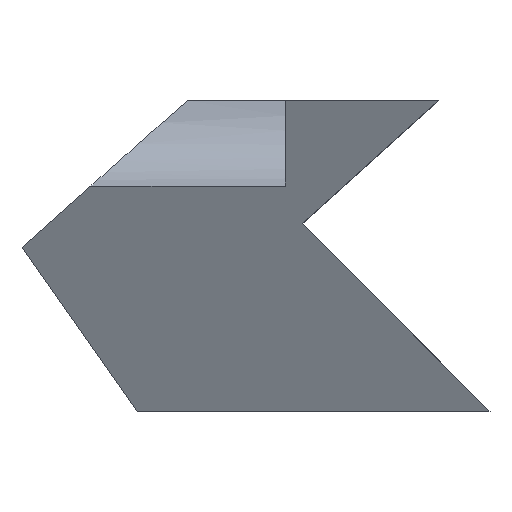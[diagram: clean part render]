
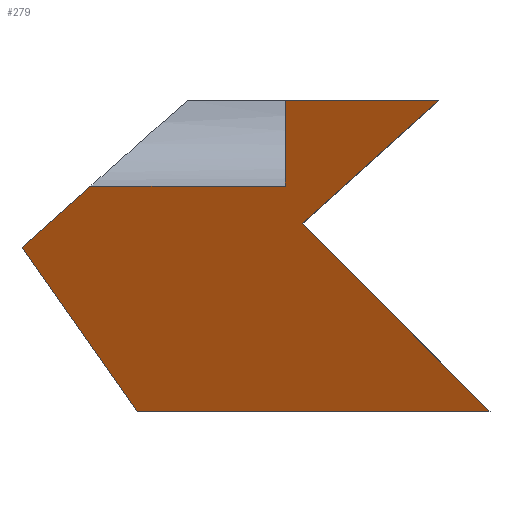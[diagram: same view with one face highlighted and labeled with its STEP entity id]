
A CAD part, top view. The second image highlights one B-rep face of the part: STEP entity #279.
In plain terms, the highlighted planar face has unit normal (0, -0.423, 0.906).
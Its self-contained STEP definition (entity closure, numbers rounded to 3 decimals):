
#24=FACE_OUTER_BOUND('',#39,.T.);
#39=EDGE_LOOP('',(#210,#211,#212,#213,#214,#215,#216,#217));
#50=LINE('',#408,#86);
#53=LINE('',#414,#89);
#59=LINE('',#428,#95);
#63=LINE('',#437,#99);
#64=LINE('',#439,#100);
#65=LINE('',#442,#101);
#66=LINE('',#444,#102);
#67=LINE('',#445,#103);
#86=VECTOR('',#334,10.);
#89=VECTOR('',#339,10.);
#95=VECTOR('',#351,10.);
#99=VECTOR('',#359,10.);
#100=VECTOR('',#362,10.);
#101=VECTOR('',#365,10.);
#102=VECTOR('',#366,10.);
#103=VECTOR('',#367,10.);
#122=VERTEX_POINT('',#405);
#123=VERTEX_POINT('',#407);
#125=VERTEX_POINT('',#413);
#129=VERTEX_POINT('',#425);
#130=VERTEX_POINT('',#427);
#133=VERTEX_POINT('',#435);
#134=VERTEX_POINT('',#441);
#135=VERTEX_POINT('',#443);
#147=EDGE_CURVE('',#123,#122,#50,.T.);
#150=EDGE_CURVE('',#125,#123,#53,.T.);
#157=EDGE_CURVE('',#129,#130,#59,.T.);
#162=EDGE_CURVE('',#129,#133,#63,.T.);
#163=EDGE_CURVE('',#133,#125,#64,.T.);
#164=EDGE_CURVE('',#134,#122,#65,.T.);
#165=EDGE_CURVE('',#135,#134,#66,.T.);
#166=EDGE_CURVE('',#130,#135,#67,.T.);
#210=ORIENTED_EDGE('',*,*,#147,.T.);
#211=ORIENTED_EDGE('',*,*,#164,.F.);
#212=ORIENTED_EDGE('',*,*,#165,.F.);
#213=ORIENTED_EDGE('',*,*,#166,.F.);
#214=ORIENTED_EDGE('',*,*,#157,.F.);
#215=ORIENTED_EDGE('',*,*,#162,.T.);
#216=ORIENTED_EDGE('',*,*,#163,.T.);
#217=ORIENTED_EDGE('',*,*,#150,.T.);
#264=PLANE('',#319);
#279=ADVANCED_FACE('',(#24),#264,.F.);
#319=AXIS2_PLACEMENT_3D('',#440,#363,#364);
#334=DIRECTION('',(0.537,-0.765,-0.357));
#339=DIRECTION('',(-0.715,-0.634,-0.296));
#351=DIRECTION('',(1.,0.,0.));
#359=DIRECTION('',(0.,-0.906,-0.423));
#362=DIRECTION('',(-1.,0.,0.));
#363=DIRECTION('center_axis',(0.,0.423,-0.906));
#364=DIRECTION('ref_axis',(0.,0.906,0.423));
#365=DIRECTION('',(-1.,0.,0.));
#366=DIRECTION('',(0.672,-0.672,-0.313));
#367=DIRECTION('',(-0.709,-0.639,-0.298));
#405=CARTESIAN_POINT('',(-30.188,0.,-1.338));
#407=CARTESIAN_POINT('',(-59.5,41.73,18.121));
#408=CARTESIAN_POINT('',(-25.963,-6.015,-4.143));
#413=CARTESIAN_POINT('',(-42.012,57.249,25.357));
#414=CARTESIAN_POINT('',(-57.734,43.297,18.851));
#425=CARTESIAN_POINT('',(7.5,79.,35.5));
#427=CARTESIAN_POINT('',(46.5,79.,35.5));
#428=CARTESIAN_POINT('',(-59.5,79.,35.5));
#435=CARTESIAN_POINT('',(7.5,57.249,25.357));
#437=CARTESIAN_POINT('',(7.5,39.5,17.081));
#439=CARTESIAN_POINT('',(0.,57.249,25.357));
#440=CARTESIAN_POINT('Origin',(0.,0.,-1.338));
#441=CARTESIAN_POINT('',(59.5,0.,-1.338));
#442=CARTESIAN_POINT('',(0.,0.,-1.338));
#443=CARTESIAN_POINT('',(11.771,47.729,20.918));
#444=CARTESIAN_POINT('',(42.21,17.29,6.724));
#445=CARTESIAN_POINT('',(-2.816,34.595,14.794));
